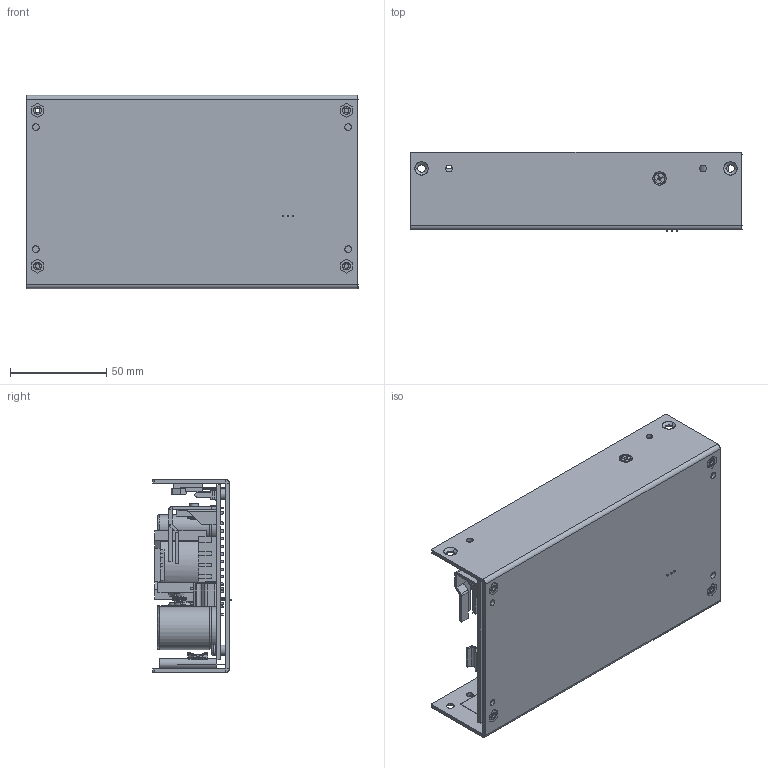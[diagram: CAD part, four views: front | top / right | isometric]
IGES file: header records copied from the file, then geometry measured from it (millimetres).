
Start section: SolidWorks IGES file using analytic representation for surfaces
Global section: file name: D:\SW-work\SNP-Z15X\SNP-Z15X.IGS; native system: SolidWorks 2014; preprocessor: SolidWorks 2014; author: mech1; date: 141113.141427; units: millimetre
Bounding box: 172.7 x 41 x 100.5 mm (x, y, z)
Surface area: 177982.2 mm2 (no closed solid volume)
Topology: 0 solids, 0 shells, 2344 faces, 20730 edges, 20718 vertices
Faces by surface type: bspline 1808, revolution 536
